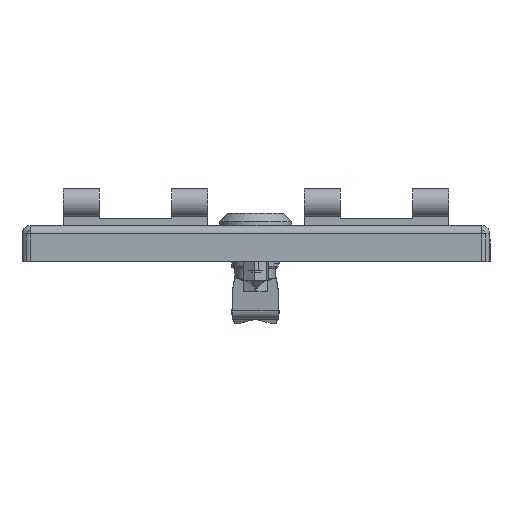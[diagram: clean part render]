
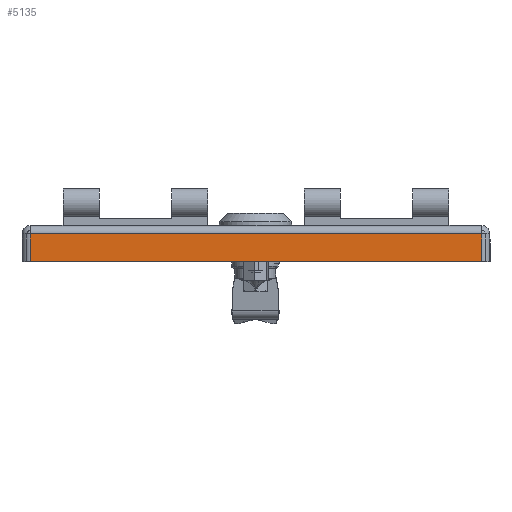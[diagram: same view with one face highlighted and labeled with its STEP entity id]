
A CAD part, left-side view. The second image highlights one B-rep face of the part: STEP entity #5135.
In plain terms, the highlighted planar face has unit normal (-1, 0, 0).
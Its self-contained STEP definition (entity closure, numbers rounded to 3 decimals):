
#1534 = FACE_OUTER_BOUND ( 'NONE', #6328, .T. ) ;
#1852 = VECTOR ( 'NONE', #9679, 1000. ) ;
#1859 = LINE ( 'NONE', #9680, #1852 ) ;
#1863 = LINE ( 'NONE', #9684, #1865 ) ;
#1864 = LINE ( 'NONE', #9686, #1867 ) ;
#1865 = VECTOR ( 'NONE', #9685, 1000. ) ;
#1867 = VECTOR ( 'NONE', #9687, 1000. ) ;
#1993 = DIRECTION ( 'NONE',  ( 0., -1., 0. ) ) ;
#1995 = CARTESIAN_POINT ( 'NONE',  ( -392.5, 97., -15. ) ) ;
#3923 = LINE ( 'NONE', #1995, #3927 ) ;
#3927 = VECTOR ( 'NONE', #1993, 1000. ) ;
#4527 = EDGE_CURVE ( 'NONE', #6182, #6167, #3923, .T. ) ;
#5135 = ADVANCED_FACE ( 'NONE', ( #1534 ), #7879, .T. ) ;
#6167 = VERTEX_POINT ( 'NONE', #9559 ) ;
#6182 = VERTEX_POINT ( 'NONE', #9574 ) ;
#6191 = VERTEX_POINT ( 'NONE', #9583 ) ;
#6195 = VERTEX_POINT ( 'NONE', #9587 ) ;
#6328 = EDGE_LOOP ( 'NONE', ( #7392, #7393, #7394, #7395 ) ) ;
#7392 = ORIENTED_EDGE ( 'NONE', *, *, #4527, .T. ) ;
#7393 = ORIENTED_EDGE ( 'NONE', *, *, #9984, .T. ) ;
#7394 = ORIENTED_EDGE ( 'NONE', *, *, #9985, .T. ) ;
#7395 = ORIENTED_EDGE ( 'NONE', *, *, #9986, .T. ) ;
#7879 = PLANE ( 'NONE',  #10988 ) ;
#7880 = CARTESIAN_POINT ( 'NONE',  ( -392.5, 97., -15. ) ) ;
#7885 = DIRECTION ( 'NONE',  ( -1., 0., 0. ) ) ;
#7886 = DIRECTION ( 'NONE',  ( 0., -1., 0. ) ) ;
#9559 = CARTESIAN_POINT ( 'NONE',  ( -392.5, -93.5, -15. ) ) ;
#9574 = CARTESIAN_POINT ( 'NONE',  ( -392.5, 93.5, -15. ) ) ;
#9583 = CARTESIAN_POINT ( 'NONE',  ( -392.5, -93.5, -3.5 ) ) ;
#9587 = CARTESIAN_POINT ( 'NONE',  ( -392.5, 93.5, -3.5 ) ) ;
#9679 = DIRECTION ( 'NONE',  ( 0., 0., 1. ) ) ;
#9680 = CARTESIAN_POINT ( 'NONE',  ( -392.5, -93.5, -15. ) ) ;
#9684 = CARTESIAN_POINT ( 'NONE',  ( -392.5, 97., -3.5 ) ) ;
#9685 = DIRECTION ( 'NONE',  ( 0., 1., 0. ) ) ;
#9686 = CARTESIAN_POINT ( 'NONE',  ( -392.5, 93.5, -15. ) ) ;
#9687 = DIRECTION ( 'NONE',  ( 0., 0., -1. ) ) ;
#9984 = EDGE_CURVE ( 'NONE', #6167, #6191, #1859, .T. ) ;
#9985 = EDGE_CURVE ( 'NONE', #6191, #6195, #1863, .T. ) ;
#9986 = EDGE_CURVE ( 'NONE', #6195, #6182, #1864, .T. ) ;
#10988 = AXIS2_PLACEMENT_3D ( 'NONE', #7880, #7885, #7886 ) ;
